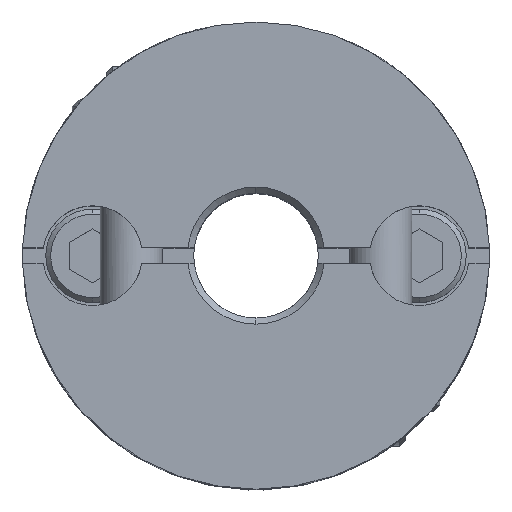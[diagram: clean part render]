
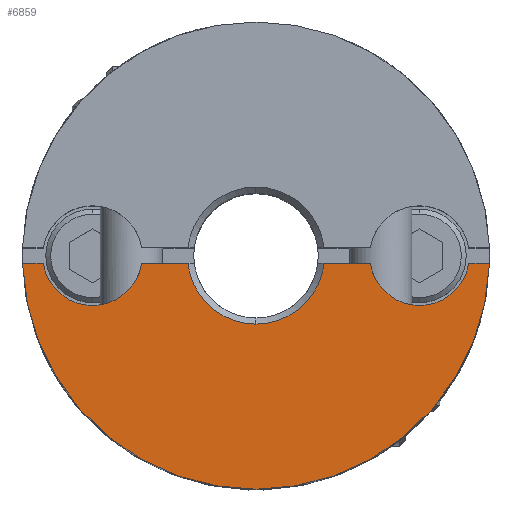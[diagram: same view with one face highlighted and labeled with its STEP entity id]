
A CAD part, top view. The second image highlights one B-rep face of the part: STEP entity #6859.
In plain terms, the highlighted planar face has unit normal (0, 0, 1).
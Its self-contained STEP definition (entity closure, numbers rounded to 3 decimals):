
#622=CARTESIAN_POINT('',(0.,-7.5,8.1));
#623=VERTEX_POINT('',#622);
#630=CARTESIAN_POINT('',(-7.496,-0.25,8.1));
#631=VERTEX_POINT('',#630);
#632=CARTESIAN_POINT('',(0.,0.,8.1));
#633=DIRECTION('',(0.0,0.0,-1.0));
#634=DIRECTION('',(0.0,1.0,0.0));
#635=AXIS2_PLACEMENT_3D('',#632,#633,#634);
#636=CIRCLE('',#635,7.5);
#637=EDGE_CURVE('',#623,#631,#636,.T.);
#983=CARTESIAN_POINT('',(0.,-2.2,8.1));
#984=VERTEX_POINT('',#983);
#1000=CARTESIAN_POINT('',(-2.186,-0.25,8.1));
#1001=VERTEX_POINT('',#1000);
#1015=CARTESIAN_POINT('',(0.,0.,8.1));
#1016=DIRECTION('',(0.0,0.0,1.0));
#1017=DIRECTION('',(0.0,-1.0,0.0));
#1018=AXIS2_PLACEMENT_3D('',#1015,#1016,#1017);
#1019=CIRCLE('',#1018,2.2);
#1020=EDGE_CURVE('',#1001,#984,#1019,.T.);
#1317=CARTESIAN_POINT('',(-5.25,-1.6,8.1));
#1318=VERTEX_POINT('',#1317);
#1334=CARTESIAN_POINT('',(-6.83,-0.25,8.1));
#1335=VERTEX_POINT('',#1334);
#1342=CARTESIAN_POINT('',(-5.25,0.,8.1));
#1343=DIRECTION('',(0.0,0.0,-1.0));
#1344=DIRECTION('',(0.0,1.0,0.0));
#1345=AXIS2_PLACEMENT_3D('',#1342,#1343,#1344);
#1346=CIRCLE('',#1345,1.6);
#1347=EDGE_CURVE('',#1318,#1335,#1346,.T.);
#1687=CARTESIAN_POINT('',(5.25,-1.6,8.1));
#1688=VERTEX_POINT('',#1687);
#1762=CARTESIAN_POINT('',(3.67,-0.25,8.1));
#1763=VERTEX_POINT('',#1762);
#1770=CARTESIAN_POINT('',(5.25,0.,8.1));
#1771=DIRECTION('',(0.0,0.0,-1.0));
#1772=DIRECTION('',(0.0,1.0,0.0));
#1773=AXIS2_PLACEMENT_3D('',#1770,#1771,#1772);
#1774=CIRCLE('',#1773,1.6);
#1775=EDGE_CURVE('',#1688,#1763,#1774,.T.);
#5991=CARTESIAN_POINT('',(6.83,-0.25,8.1));
#5992=VERTEX_POINT('',#5991);
#5993=CARTESIAN_POINT('',(5.25,0.,8.1));
#5994=DIRECTION('',(0.0,0.0,-1.0));
#5995=DIRECTION('',(0.0,1.0,0.0));
#5996=AXIS2_PLACEMENT_3D('',#5993,#5994,#5995);
#5997=CIRCLE('',#5996,1.6);
#5998=EDGE_CURVE('',#5992,#1688,#5997,.T.);
#6407=CARTESIAN_POINT('',(-3.67,-0.25,8.1));
#6408=VERTEX_POINT('',#6407);
#6415=CARTESIAN_POINT('',(-2.186,-0.25,8.1));
#6416=DIRECTION('',(-1.0,0.0,0.0));
#6417=VECTOR('',#6416,1.484);
#6418=LINE('',#6415,#6417);
#6419=EDGE_CURVE('',#1001,#6408,#6418,.T.);
#6531=CARTESIAN_POINT('',(-5.25,0.,8.1));
#6532=DIRECTION('',(0.0,0.0,-1.0));
#6533=DIRECTION('',(0.0,1.0,0.0));
#6534=AXIS2_PLACEMENT_3D('',#6531,#6532,#6533);
#6535=CIRCLE('',#6534,1.6);
#6536=EDGE_CURVE('',#6408,#1318,#6535,.T.);
#6649=CARTESIAN_POINT('',(2.186,-0.25,8.1));
#6650=VERTEX_POINT('',#6649);
#6664=CARTESIAN_POINT('',(3.67,-0.25,8.1));
#6665=DIRECTION('',(-1.0,0.0,0.0));
#6666=VECTOR('',#6665,1.484);
#6667=LINE('',#6664,#6666);
#6668=EDGE_CURVE('',#1763,#6650,#6667,.T.);
#6810=CARTESIAN_POINT('',(0.,0.,8.1));
#6811=DIRECTION('',(0.0,0.0,1.0));
#6812=DIRECTION('',(0.0,-1.0,0.0));
#6813=AXIS2_PLACEMENT_3D('',#6810,#6811,#6812);
#6814=CIRCLE('',#6813,2.2);
#6815=EDGE_CURVE('',#984,#6650,#6814,.T.);
#6822=CARTESIAN_POINT('',(0.,0.682,8.1));
#6823=DIRECTION('',(0.0,0.0,1.0));
#6824=DIRECTION('',(0.0,1.0,0.0));
#6825=AXIS2_PLACEMENT_3D('',#6822,#6823,#6824);
#6826=PLANE('',#6825);
#6827=ORIENTED_EDGE('',*,*,#1020,.F.);
#6828=ORIENTED_EDGE('',*,*,#6419,.T.);
#6829=ORIENTED_EDGE('',*,*,#6536,.T.);
#6830=ORIENTED_EDGE('',*,*,#1347,.T.);
#6831=CARTESIAN_POINT('',(-6.83,-0.25,8.1));
#6832=DIRECTION('',(-1.0,0.0,0.0));
#6833=VECTOR('',#6832,0.665);
#6834=LINE('',#6831,#6833);
#6835=EDGE_CURVE('',#1335,#631,#6834,.T.);
#6836=ORIENTED_EDGE('',*,*,#6835,.T.);
#6837=ORIENTED_EDGE('',*,*,#637,.F.);
#6838=CARTESIAN_POINT('',(7.496,-0.25,8.1));
#6839=VERTEX_POINT('',#6838);
#6840=CARTESIAN_POINT('',(0.,0.,8.1));
#6841=DIRECTION('',(0.0,0.0,-1.0));
#6842=DIRECTION('',(0.0,1.0,0.0));
#6843=AXIS2_PLACEMENT_3D('',#6840,#6841,#6842);
#6844=CIRCLE('',#6843,7.5);
#6845=EDGE_CURVE('',#6839,#623,#6844,.T.);
#6846=ORIENTED_EDGE('',*,*,#6845,.F.);
#6847=CARTESIAN_POINT('',(7.496,-0.25,8.1));
#6848=DIRECTION('',(-1.0,0.0,0.0));
#6849=VECTOR('',#6848,0.665);
#6850=LINE('',#6847,#6849);
#6851=EDGE_CURVE('',#6839,#5992,#6850,.T.);
#6852=ORIENTED_EDGE('',*,*,#6851,.T.);
#6853=ORIENTED_EDGE('',*,*,#5998,.T.);
#6854=ORIENTED_EDGE('',*,*,#1775,.T.);
#6855=ORIENTED_EDGE('',*,*,#6668,.T.);
#6856=ORIENTED_EDGE('',*,*,#6815,.F.);
#6857=EDGE_LOOP('',(#6827,#6828,#6829,#6830,#6836,#6837,#6846,#6852,#6853,#6854,#6855,#6856));
#6858=FACE_OUTER_BOUND('',#6857,.T.);
#6859=ADVANCED_FACE('',(#6858),#6826,.T.);
